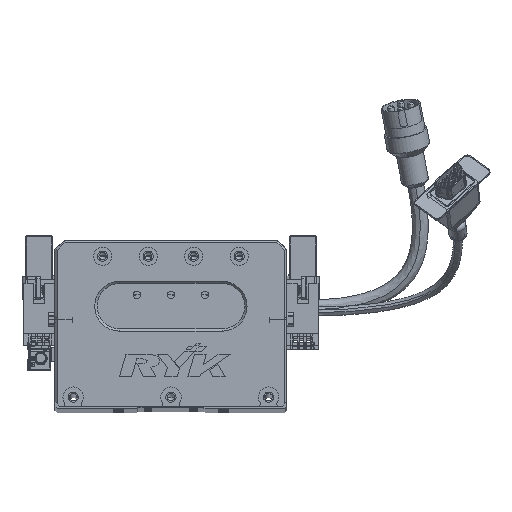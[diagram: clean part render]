
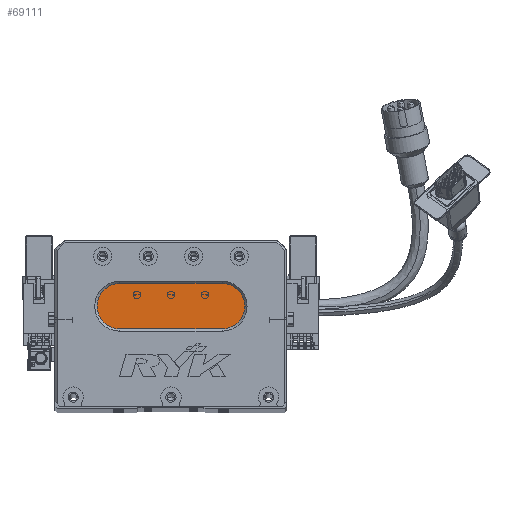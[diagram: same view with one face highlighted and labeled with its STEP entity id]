
A CAD part, top view. The second image highlights one B-rep face of the part: STEP entity #69111.
In plain terms, the highlighted planar face has unit normal (0, 0, 1) as drawn and (0, 0, -1) by its records, which use the part's own axes.
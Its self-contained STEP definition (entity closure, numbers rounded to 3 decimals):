
#260 = DIRECTION ( 'NONE',  ( 0., 0., -1. ) ) ;
#1828 = AXIS2_PLACEMENT_3D ( 'NONE', #65757, #260, #6241 ) ;
#2721 = VECTOR ( 'NONE', #24920, 1000. ) ;
#3450 = CARTESIAN_POINT ( 'NONE',  ( 73.5, 54., 13. ) ) ;
#6241 = DIRECTION ( 'NONE',  ( -1., 0., 0. ) ) ;
#6339 = DIRECTION ( 'NONE',  ( -1., 0., 0. ) ) ;
#7358 = VERTEX_POINT ( 'NONE', #11600 ) ;
#10269 = AXIS2_PLACEMENT_3D ( 'NONE', #28313, #23009, #6339 ) ;
#11600 = CARTESIAN_POINT ( 'NONE',  ( 73.5, 34., 13. ) ) ;
#11674 = VERTEX_POINT ( 'NONE', #50704 ) ;
#18251 = AXIS2_PLACEMENT_3D ( 'NONE', #24230, #62735, #18510 ) ;
#18406 = CIRCLE ( 'NONE', #18251, 10. ) ;
#18510 = DIRECTION ( 'NONE',  ( -1., 0., 0. ) ) ;
#19034 = VERTEX_POINT ( 'NONE', #35476 ) ;
#20258 = EDGE_CURVE ( 'NONE', #19034, #28598, #59167, .T. ) ;
#21360 = ORIENTED_EDGE ( 'NONE', *, *, #41025, .T. ) ;
#23009 = DIRECTION ( 'NONE',  ( 0., 0., -1. ) ) ;
#23845 = VERTEX_POINT ( 'NONE', #36154 ) ;
#24230 = CARTESIAN_POINT ( 'NONE',  ( 28.5, 44., 13. ) ) ;
#24920 = DIRECTION ( 'NONE',  ( 1., 0., 0. ) ) ;
#26044 = CARTESIAN_POINT ( 'NONE',  ( 73.5, 54., 13. ) ) ;
#26598 = LINE ( 'NONE', #49705, #41971 ) ;
#28313 = CARTESIAN_POINT ( 'NONE',  ( 73.5, 44., 13. ) ) ;
#28559 = CARTESIAN_POINT ( 'NONE',  ( 28.5, 44., 13. ) ) ;
#28598 = VERTEX_POINT ( 'NONE', #26044 ) ;
#30163 = EDGE_LOOP ( 'NONE', ( #38970, #21360, #30339, #57480, #45139 ) ) ;
#30339 = ORIENTED_EDGE ( 'NONE', *, *, #46885, .T. ) ;
#35476 = CARTESIAN_POINT ( 'NONE',  ( 28.5, 54., 13. ) ) ;
#36055 = FACE_OUTER_BOUND ( 'NONE', #30163, .T. ) ;
#36154 = CARTESIAN_POINT ( 'NONE',  ( 28.5, 34., 13. ) ) ;
#38841 = EDGE_CURVE ( 'NONE', #28598, #7358, #66271, .T. ) ;
#38970 = ORIENTED_EDGE ( 'NONE', *, *, #38841, .T. ) ;
#39317 = DIRECTION ( 'NONE',  ( -1., 0., 0. ) ) ;
#41025 = EDGE_CURVE ( 'NONE', #7358, #23845, #26598, .T. ) ;
#41971 = VECTOR ( 'NONE', #66192, 1000. ) ;
#45139 = ORIENTED_EDGE ( 'NONE', *, *, #20258, .T. ) ;
#46885 = EDGE_CURVE ( 'NONE', #23845, #11674, #18406, .T. ) ;
#49705 = CARTESIAN_POINT ( 'NONE',  ( 73.5, 34., 13. ) ) ;
#50704 = CARTESIAN_POINT ( 'NONE',  ( 18.5, 44., 13. ) ) ;
#51017 = DIRECTION ( 'NONE',  ( 0., 0., -1. ) ) ;
#51182 = EDGE_CURVE ( 'NONE', #11674, #19034, #52100, .T. ) ;
#52100 = CIRCLE ( 'NONE', #54191, 10. ) ;
#54191 = AXIS2_PLACEMENT_3D ( 'NONE', #28559, #51017, #39317 ) ;
#57480 = ORIENTED_EDGE ( 'NONE', *, *, #51182, .T. ) ;
#59167 = LINE ( 'NONE', #3450, #2721 ) ;
#61088 = PLANE ( 'NONE',  #10269 ) ;
#62735 = DIRECTION ( 'NONE',  ( 0., 0., -1. ) ) ;
#65757 = CARTESIAN_POINT ( 'NONE',  ( 73.5, 44., 13. ) ) ;
#66192 = DIRECTION ( 'NONE',  ( -1., 0., 0. ) ) ;
#66271 = CIRCLE ( 'NONE', #1828, 10. ) ;
#69111 = ADVANCED_FACE ( 'NONE', ( #36055 ), #61088, .T. ) ;
